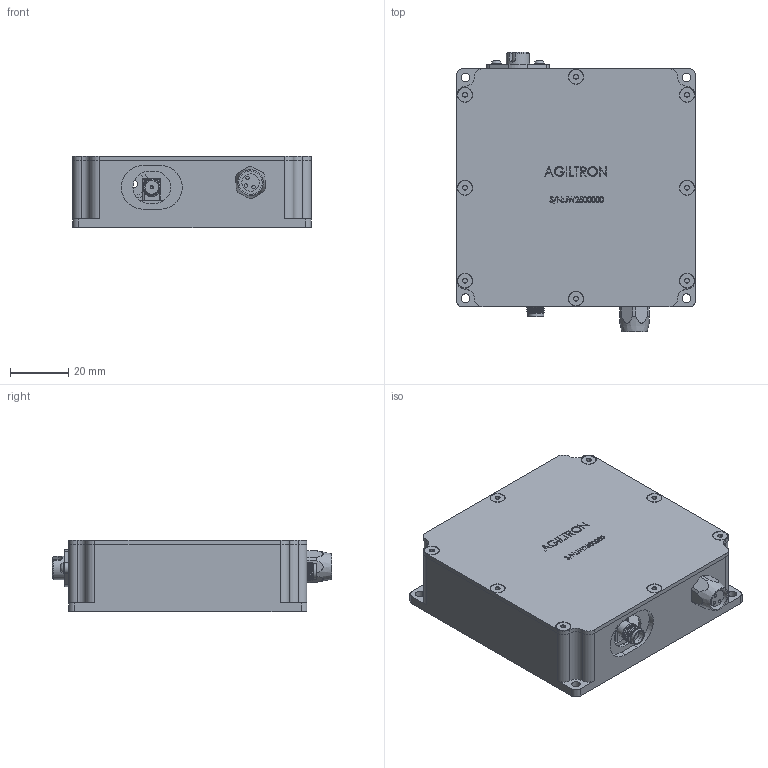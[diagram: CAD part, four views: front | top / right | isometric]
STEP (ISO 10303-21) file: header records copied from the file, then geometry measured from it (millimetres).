
FILE_DESCRIPTION (( 'STEP AP203' ), '1' );
FILE_NAME ('RFOF.STEP', '2025-03-17T19:55:03', ( 'cad' ), ( '' ), 'SwSTEP 2.0', 'SolidWorks 2017', '' );
FILE_SCHEMA (( 'CONFIG_CONTROL_DESIGN' ));
Length unit declared in the file: millimetre
Products named in the file (12): 92095A452_Button Head Hex Drive Screw; POWER CONNECTOR; FC connector new; 40GH PCB; 92125A083_18-8 Stainless Steel Hex Drive Flat Head Screw; 40GH PCB ASM; RFOF; LWO FREQUENCY PCB; SMA_c-5-1814400-2-d-3d; LOW FREQUENCY PCB ASM; 1002413_COVER; 1002412_BASE
Assembly tree (19 placements, depth 3):
  RFOF
    1002412_BASE
    POWER CONNECTOR
    FC connector new
    40GH PCB ASM
      40GH PCB
    LOW FREQUENCY PCB ASM
      LWO FREQUENCY PCB
      SMA_c-5-1814400-2-d-3d
    1002413_COVER
    92095A452_Button Head Hex Drive Screw  x2
    92125A083_18-8 Stainless Steel Hex Drive Flat Head Screw  x8
Bounding box: 82 x 96.1 x 24.5 mm (x, y, z)
Volume: 61535.3 mm3; surface area: 64026.3 mm2
Topology: 17 solids, 17 shells, 734 faces, 1963 edges, 1330 vertices
Faces by surface type: plane 332, cylinder 202, cone 150, bspline 46, torus 4
Full cylindrical faces by diameter (mm): 0.71 x1, 0.95 x1, 1.1 x1, 1.2 x3, 1.7 x2, 2.125 x5, 2.13 x3, 2.3 x2, 2.5 x1, 2.55 x8, 3 x12, 3.469 x8, 3.5 x2, 4 x1, 4.7 x1, 5 x8, 5.45 x2, 6 x2, 8 x3, 8.5 x1, 10 x1
Entity records: 26966 total; most frequent: CARTESIAN_POINT 12017, ORIENTED_EDGE 2796, DIRECTION 2653, EDGE_CURVE 1398, VERTEX_POINT 1046, AXIS2_PLACEMENT_3D 975, EDGE_LOOP 738, LINE 703
